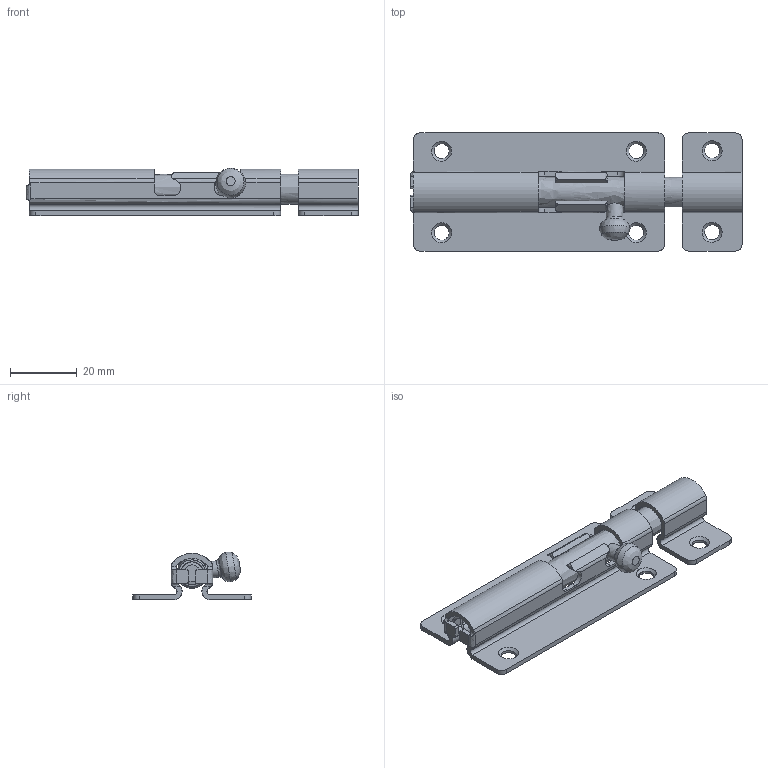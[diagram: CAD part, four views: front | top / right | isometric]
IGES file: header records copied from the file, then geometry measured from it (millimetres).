
Global section: file name: DR_ODS1-4S; native system: Autodesk Inventor 2015; preprocessor: unknown; author: Administrator; date: 20190507.183134; units: millimetre
Bounding box: 99.77 x 35.5 x 14.34 mm (x, y, z)
Volume: 11930.5 mm3; surface area: 13675.2 mm2
Topology: 4 solids, 4 shells, 146 faces, 427 edges, 287 vertices
Faces by surface type: bspline 146
